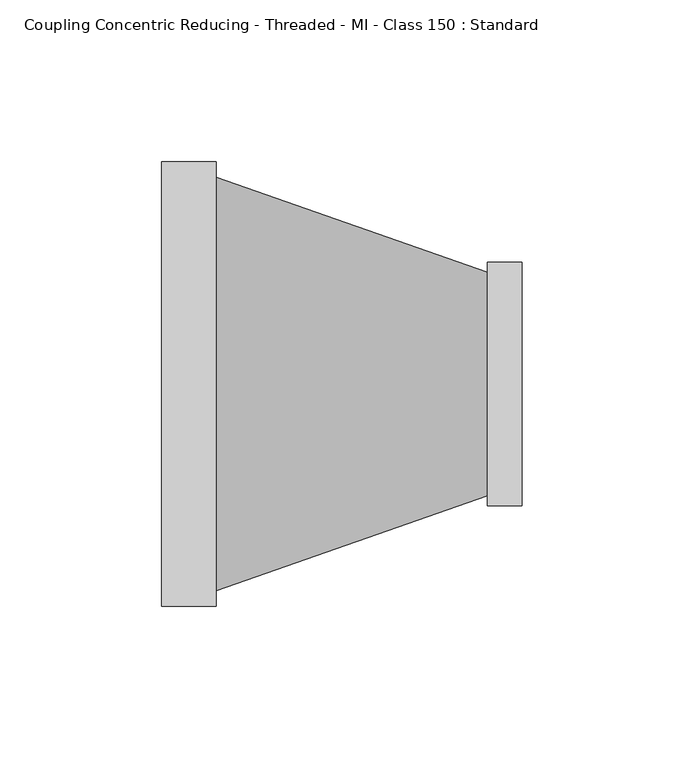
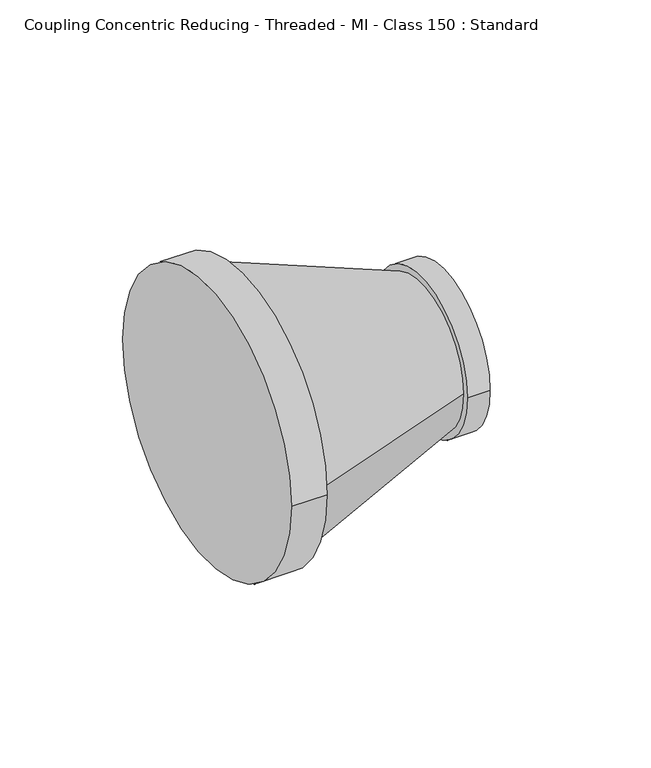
"""IFC4 building model written with IfcOpenShell, lengths in millimetres: pipe fitting geometry, Coupling Concentric Reducing - Threaded - MI - Class 150 : Standard."""

import ifcopenshell
import ifcopenshell.guid

model = None  # the IFC model being written
_history = None  # IfcOwnerHistory: only IFC2X3 demands one
_inside = {}  # id of a spatial element -> (the spatial element, [elements in it])
_under = {}  # id of a project, library or spatial element -> (it, [spatial elements below it])
_declared = {}  # id of a project -> (the project, [libraries it declares])
_typed = {}  # id of a type object -> (the type object, [elements of that type])
_made_of = {}  # id of a material, layer set ... -> (it, [elements and type objects made of it])


def new_model(schema):
    """Start an empty IFC model of exactly this schema.

    Asked for "IFC4X3", IfcOpenShell would pick the latest addendum, in which some entities
    have other attributes; the version numbers below select the first issue.
    IFC2X3 requires an IfcOwnerHistory on every rooted entity: one is made here for all.
    """
    global model, _history
    if schema == "IFC4X3":
        model = ifcopenshell.file(schema_version=(4, 3, 0, 0))
    else:
        model = ifcopenshell.file(schema=schema)
    _inside.clear()
    _under.clear()
    _declared.clear()
    _typed.clear()
    _made_of.clear()
    _history = None
    if model.schema == "IFC2X3":
        org = make("IfcOrganization", Name="unknown")
        user = make(
            "IfcPersonAndOrganization",
            ThePerson=make("IfcPerson", FamilyName="unknown"),
            TheOrganization=org,
        )
        app = make(
            "IfcApplication",
            ApplicationDeveloper=org,
            Version="unknown",
            ApplicationFullName="unknown",
            ApplicationIdentifier="unknown",
        )
        _history = make(
            "IfcOwnerHistory",
            OwningUser=user,
            OwningApplication=app,
            ChangeAction="ADDED",
            CreationDate=0,
        )
    return model


def make(cls, **values):
    """One entity of the class cls with the attributes given. An attribute that is None is left unset."""
    return model.create_entity(
        cls, **{name: value for name, value in values.items() if value is not None}
    )


def rooted(cls, **values):
    """An entity with a GlobalId (a new one), such as an element, a storey or a relation."""
    return make(cls, GlobalId=ifcopenshell.guid.new(), OwnerHistory=_history, **values)


def si_unit(unit_type, name, prefix=None):
    """IfcSIUnit, for example si_unit("LENGTHUNIT", "METRE", prefix="MILLI")."""
    return make("IfcSIUnit", UnitType=unit_type, Prefix=prefix, Name=name)


def assignment(units):
    """IfcUnitAssignment: the units of a project."""
    return None if units is None else make("IfcUnitAssignment", Units=units)


def point(xyz):
    """IfcCartesianPoint."""
    return None if xyz is None else make("IfcCartesianPoint", Coordinates=xyz)


def direction(xyz):
    """IfcDirection."""
    return None if xyz is None else make("IfcDirection", DirectionRatios=xyz)


def frame(location, z_axis=None, x_axis=None):
    """IfcAxis2Placement3D, a coordinate frame: its origin and axes. An axis left out is left unset."""
    return make(
        "IfcAxis2Placement3D",
        Location=point(location),
        Axis=direction(z_axis),
        RefDirection=direction(x_axis),
    )


def origin():
    """The frame at (0, 0, 0) with its axes left unset."""
    return frame((0.0, 0.0, 0.0))


def place(relative_to, where):
    """IfcLocalPlacement: puts the frame where relative to a parent placement (None: the world)."""
    return make(
        "IfcLocalPlacement", PlacementRelTo=relative_to, RelativePlacement=where
    )


def context(
    kind, dimensions, precision=None, world=None, true_north=None, identifier=None
):
    """IfcGeometricRepresentationContext, for example the 3D "Model" context."""
    return make(
        "IfcGeometricRepresentationContext",
        ContextIdentifier=identifier,
        ContextType=kind,
        CoordinateSpaceDimension=dimensions,
        Precision=precision,
        WorldCoordinateSystem=world,
        TrueNorth=true_north,
    )


def project(units=None, contexts=None):
    """IfcProject with its units and contexts."""
    return rooted(
        "IfcProject",
        Name="project",
        RepresentationContexts=contexts,
        UnitsInContext=assignment(units),
    )


def spatial(cls, under=None, at=None, **own):
    """A site, building, storey or space (cls), placed at a placement, below another one or the project."""
    s = rooted(cls, ObjectPlacement=at, **own)
    if under is not None:
        _under.setdefault(under.id(), (under, []))[1].append(s)
    return s


def polyline(points):
    """IfcPolyline through the points."""
    return make("IfcPolyline", Points=[point(p) for p in points])


def circle_curve(where, radius):
    """IfcCircle in the frame where."""
    return make("IfcCircle", Position=where, Radius=radius)


def shape(context_of_items, identifier, shape_type, items):
    """IfcShapeRepresentation: the items that make up one representation, for example the "Body"."""
    return make(
        "IfcShapeRepresentation",
        ContextOfItems=context_of_items,
        RepresentationIdentifier=identifier,
        RepresentationType=shape_type,
        Items=items,
    )


def source(mapping_origin, context_of_items, identifier, shape_type, items):
    """IfcRepresentationMap: a shape defined once, which mapped items show again and again."""
    return make(
        "IfcRepresentationMap",
        MappingOrigin=mapping_origin,
        MappedRepresentation=shape(context_of_items, identifier, shape_type, items),
    )


def transform(
    local_origin,
    x_axis=None,
    y_axis=None,
    z_axis=None,
    scale=None,
    scale2=None,
    scale3=None,
    uniform=True,
):
    """IfcCartesianTransformationOperator3D, or its non-uniform kind. x_axis, y_axis, z_axis: its Axis1, 2, 3."""
    if uniform:
        return make(
            "IfcCartesianTransformationOperator3D",
            Axis1=direction(x_axis),
            Axis2=direction(y_axis),
            LocalOrigin=point(local_origin),
            Scale=scale,
            Axis3=direction(z_axis),
        )
    return make(
        "IfcCartesianTransformationOperator3DnonUniform",
        Axis1=direction(x_axis),
        Axis2=direction(y_axis),
        LocalOrigin=point(local_origin),
        Scale=scale,
        Axis3=direction(z_axis),
        Scale2=scale2,
        Scale3=scale3,
    )


def mapped(mapping_source, mapping_target):
    """IfcMappedItem: shows the shape of a source again, moved by a transform."""
    return make(
        "IfcMappedItem", MappingSource=mapping_source, MappingTarget=mapping_target
    )


def made_of(thing, what):
    """Note that an element or type object is made of a material, layer set ...; save() writes the relation."""
    if what is not None:
        _made_of.setdefault(what.id(), (what, []))[1].append(thing)
    return thing


def element(
    cls,
    number,
    at=None,
    inside=None,
    cuts=None,
    type_object=None,
    material=None,
    context=None,
    identifier="Body",
    shape_type=None,
    held_by="IfcProductDefinitionShape",
    body=None,
    shapes=None,
    **own,
):
    """One element of the class cls, such as IfcWall. Its Tag is "e" and its number.

    at: its placement. inside: the storey or other place that contains it. cuts: it is an
    opening in that element (IfcRelVoidsElement). A single representation is given by context,
    identifier, shape_type and body (its items); several are given by shapes. held_by: the class
    of the entity that holds the representations. save() writes the other relations.
    """
    e = rooted(cls, Tag="e%d" % number, ObjectPlacement=at, **own)
    if body is not None:
        shapes = [shape(context, identifier, shape_type, body)]
    if shapes is not None:
        e.Representation = make(held_by, Representations=shapes)
    if inside is not None:
        _inside.setdefault(inside.id(), (inside, []))[1].append(e)
    if cuts is not None:
        rooted(
            "IfcRelVoidsElement", RelatingBuildingElement=cuts, RelatedOpeningElement=e
        )
    if type_object is not None:
        _typed.setdefault(type_object.id(), (type_object, []))[1].append(e)
    return made_of(e, material)


def aggregate(whole, parts):
    """IfcRelAggregates: a whole, such as a stair, and the parts it consists of."""
    return rooted("IfcRelAggregates", RelatingObject=whole, RelatedObjects=parts)


def save(model, path):
    """Write the relations noted so far, then the file.

    IfcRelAggregates (storeys below a building ...), IfcRelContainedInSpatialStructure (elements
    in a storey), IfcRelDefinesByType, IfcRelAssociatesMaterial and IfcRelDeclares: one each for
    every whole, place, type object, material and project.
    """
    for whole, parts in _under.values():
        aggregate(whole, parts)
    for where, things in _inside.values():
        rooted(
            "IfcRelContainedInSpatialStructure",
            RelatedElements=things,
            RelatingStructure=where,
        )
    for kind, things in _typed.values():
        rooted("IfcRelDefinesByType", RelatedObjects=things, RelatingType=kind)
    for what, things in _made_of.values():
        rooted("IfcRelAssociatesMaterial", RelatedObjects=things, RelatingMaterial=what)
    for by, libraries in _declared.values():
        rooted("IfcRelDeclares", RelatingContext=by, RelatedDefinitions=libraries)
    model.write(path)


def plane_surface(at):
    """IfcPlane: the flat surface through the origin of the frame at, square to its z axis."""
    return make("IfcPlane", Position=at)


def cylinder_surface(at, radius):
    """IfcCylindricalSurface: all points at the distance radius from the z axis of the frame at."""
    return make("IfcCylindricalSurface", Position=at, Radius=radius)


def revolved_surface(curve, axis_point, axis_direction):
    """IfcSurfaceOfRevolution: the curve turned about the line through axis_point along axis_direction."""
    return make(
        "IfcSurfaceOfRevolution",
        SweptCurve=make("IfcArbitraryOpenProfileDef", ProfileType="CURVE", Curve=curve),
        AxisPosition=make("IfcAxis1Placement", Location=point(axis_point), Axis=direction(axis_direction)),
    )


def advanced_brep(points, edges, surfaces, faces):
    """IfcAdvancedBrep: a solid bounded by faces that lie on surfaces and meet in shared edges.

    An edge is (start, end): straight between two places in points (the first is 0);
    or (start, end, curve); or (start, end, curve, False) where it runs against its curve.
    A face is (place in surfaces, loops), or (place, loops, False) where it looks against
    its surface's normal. A loop lists edges by number (the first is 1), with a minus sign
    where the edge is run from its end to its start. The first loop is the outer one.
    """
    corners = [point(p) for p in points]
    vertices = [make("IfcVertexPoint", VertexGeometry=c) for c in corners]
    made = []
    for start, end, *more in edges:
        made.append(
            make(
                "IfcEdgeCurve",
                EdgeStart=vertices[start],
                EdgeEnd=vertices[end],
                EdgeGeometry=more[0] if more else make("IfcPolyline", Points=[corners[start], corners[end]]),
                SameSense=more[1] if len(more) > 1 else True,
            )
        )
    hull = []
    for where, loops, *sense in faces:
        bounds = []
        for j, loop in enumerate(loops):
            ring = [make("IfcOrientedEdge", EdgeElement=made[abs(k) - 1], Orientation=k > 0) for k in loop]
            bounds.append(
                make(
                    "IfcFaceOuterBound" if j == 0 else "IfcFaceBound",
                    Bound=make("IfcEdgeLoop", EdgeList=ring),
                    Orientation=True,
                )
            )
        hull.append(make("IfcAdvancedFace", Bounds=bounds, FaceSurface=surfaces[where], SameSense=sense[0] if sense else True))
    return make("IfcAdvancedBrep", Outer=make("IfcClosedShell", CfsFaces=hull))


def coupling_concentric_reducing_threaded_mi_class_150_standard_b08cc743(model_context):
    return source(origin(), model_context, "Body", "AdvancedBrep", [
        advanced_brep(
        [(16.8, 63.93, 0.0), (100.6, 34.54, 0.0), (100.6, -34.54, 0.0), (16.8, -63.93, 0.0), (111.3, -37.65, 0.0), (111.3, 37.65, 0.0), (100.6, -37.65, 0.0), (100.6, 37.65, 0.0), (16.8, -68.6, 0.0), (16.8, 68.6, 0.0), (0.0, -68.6, 0.0), (0.0, 68.6, 0.0)],
        [
            (0, 1),
            (1, 2, circle_curve(frame((100.6, 0.0, 0.0), z_axis=(-1.0, 0.0, 0.0), x_axis=(0.0, -1.0, 0.0)), 34.54)),
            (2, 3),
            (3, 0, circle_curve(frame((16.8, 0.0, 0.0), z_axis=(1.0, 0.0, 0.0), x_axis=(0.0, -1.0, 0.0)), 63.93)),
            (0, 3, circle_curve(frame((16.8, 0.0, 0.0), z_axis=(1.0, 0.0, 0.0), x_axis=(0.0, 1.0, 0.0)), 63.93)),
            (2, 1, circle_curve(frame((100.6, 0.0, 0.0), z_axis=(-1.0, 0.0, 0.0), x_axis=(0.0, 1.0, 0.0)), 34.54)),
            (4, 5, circle_curve(frame((111.3, 0.0, 0.0), z_axis=(1.0, 0.0, 0.0), x_axis=(0.0, 1.0, 0.0)), 37.65)),
            (5, 4, circle_curve(frame((111.3, 0.0, 0.0), z_axis=(1.0, 0.0, 0.0), x_axis=(0.0, 1.0, 0.0)), 37.65)),
            (6, 7, circle_curve(frame((100.6, 0.0, 0.0), z_axis=(-1.0, 0.0, 0.0), x_axis=(0.0, 1.0, 0.0)), 37.65)),
            (7, 6, circle_curve(frame((100.6, 0.0, 0.0), z_axis=(-1.0, 0.0, 0.0), x_axis=(0.0, 1.0, 0.0)), 37.65)),
            (4, 6),
            (7, 5),
            (8, 9, circle_curve(frame((16.8, 0.0, 0.0), z_axis=(1.0, 0.0, 0.0), x_axis=(0.0, 1.0, 0.0)), 68.6)),
            (9, 8, circle_curve(frame((16.8, 0.0, 0.0), z_axis=(1.0, 0.0, 0.0), x_axis=(0.0, 1.0, 0.0)), 68.6)),
            (10, 11, circle_curve(frame((0.0, 0.0, 0.0), z_axis=(-1.0, 0.0, 0.0), x_axis=(0.0, 1.0, 0.0)), 68.6)),
            (11, 10, circle_curve(frame((0.0, 0.0, 0.0), z_axis=(-1.0, 0.0, 0.0), x_axis=(0.0, 1.0, 0.0)), 68.6)),
            (8, 10),
            (11, 9),
        ],
        [
            revolved_surface(polyline([(100.60000000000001, 34.53999999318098, 0.0), (16.80000000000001, 63.93, 0.0)]), (199.0842463, 0.0, 0.0), (-1.0, 0.0, 0.0)),
            plane_surface(frame((111.3, 37.65, 0.0), z_axis=(1.0, 0.0, 0.0), x_axis=(0.0, 0.0, 1.0))),
            plane_surface(frame((100.6, 37.65, 0.0), z_axis=(-1.0, 0.0, 0.0), x_axis=(0.0, 0.0, -1.0))),
            cylinder_surface(frame((100.6, 0.0, 0.0), z_axis=(1.0, 0.0, 0.0), x_axis=(0.0, 1.0, 0.0)), 37.65),
            plane_surface(frame((16.8, 68.6, 0.0), z_axis=(1.0, 0.0, 0.0), x_axis=(0.0, 0.0, 1.0))),
            plane_surface(frame((0.0, 68.6, 0.0), z_axis=(-1.0, 0.0, 0.0), x_axis=(0.0, 0.0, -1.0))),
            cylinder_surface(frame((0.0, 0.0, 0.0), z_axis=(1.0, 0.0, 0.0), x_axis=(0.0, 1.0, 0.0)), 68.6),
        ],
        [
            (0, [[1, 2, 3, 4]]),
            (0, [[-1, 5, -3, 6]]),
            (1, [[7, 8]]),
            (2, [[9, 10], [-2, -6]]),
            (3, [[-7, 11, -10, 12]]),
            (3, [[-8, -12, -9, -11]]),
            (4, [[13, 14], [-4, -5]]),
            (5, [[15, 16]]),
            (6, [[-13, 17, -16, 18]]),
            (6, [[-14, -18, -15, -17]]),
        ],
    ),
    ])


if __name__ == "__main__":
    model = new_model("IFC4")
    model_context = context("Model", 3, world=origin())
    ifc_project = project(units=[si_unit("LENGTHUNIT", "METRE", prefix="MILLI")], contexts=[model_context])
    site = spatial("IfcSite", under=ifc_project)
    building = spatial("IfcBuilding", under=site)
    placement = place(None, origin())
    coupling_concentric_reducing_threaded_mi_class_150_standard_shape = coupling_concentric_reducing_threaded_mi_class_150_standard_b08cc743(model_context)
    element("IfcPipeFitting", 1, ObjectType="Coupling Concentric Reducing - Threaded - MI - Class 150 : Standard", at=placement, inside=building, context=model_context, shape_type="MappedRepresentation", body=[
        mapped(coupling_concentric_reducing_threaded_mi_class_150_standard_shape, transform((0.0, 0.0, 0.0), x_axis=(1.0, 0.0, 0.0), y_axis=(0.0, 1.0, 0.0), z_axis=(0.0, 0.0, 1.0))),
    ])
    save(model, "model.ifc")
